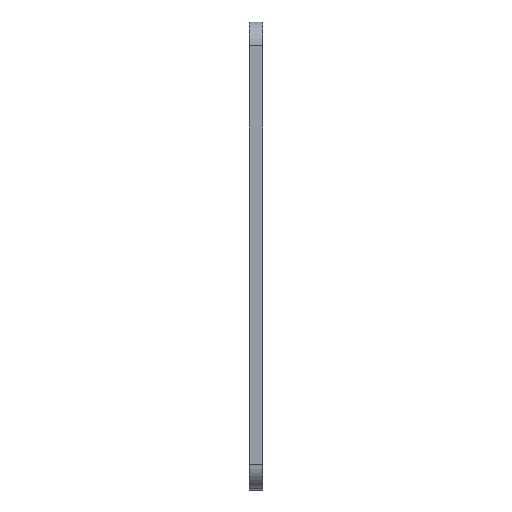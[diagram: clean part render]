
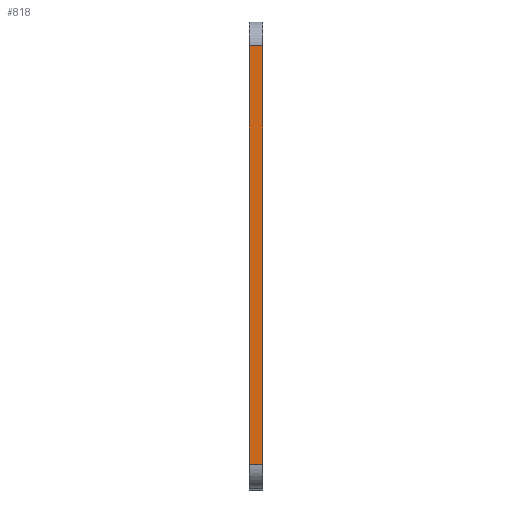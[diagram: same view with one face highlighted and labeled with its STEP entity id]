
A CAD part, top view. The second image highlights one B-rep face of the part: STEP entity #818.
In plain terms, the highlighted planar face has unit normal (0, 0, 1).
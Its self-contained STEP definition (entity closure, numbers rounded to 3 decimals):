
#45 = FACE_OUTER_BOUND ( 'NONE', #157, .T. ) ;
#116 = LINE ( 'NONE', #984, #117 ) ;
#117 = VECTOR ( 'NONE', #983, 1000. ) ;
#157 = EDGE_LOOP ( 'NONE', ( #271, #248, #272, #273 ) ) ;
#248 = ORIENTED_EDGE ( 'NONE', *, *, #315, .F. ) ;
#271 = ORIENTED_EDGE ( 'NONE', *, *, #433, .T. ) ;
#272 = ORIENTED_EDGE ( 'NONE', *, *, #436, .F. ) ;
#273 = ORIENTED_EDGE ( 'NONE', *, *, #449, .T. ) ;
#315 = EDGE_CURVE ( 'NONE', #1031, #1023, #116, .T. ) ;
#360 = AXIS2_PLACEMENT_3D ( 'NONE', #805, #804, #803 ) ;
#433 = EDGE_CURVE ( 'NONE', #1026, #1023, #534, .T. ) ;
#436 = EDGE_CURVE ( 'NONE', #1046, #1031, #516, .T. ) ;
#449 = EDGE_CURVE ( 'NONE', #1046, #1026, #495, .T. ) ;
#493 = VECTOR ( 'NONE', #792, 1000. ) ;
#495 = LINE ( 'NONE', #796, #493 ) ;
#506 = VECTOR ( 'NONE', #879, 1000. ) ;
#516 = LINE ( 'NONE', #878, #506 ) ;
#534 = LINE ( 'NONE', #871, #539 ) ;
#539 = VECTOR ( 'NONE', #870, 1000. ) ;
#636 = CARTESIAN_POINT ( 'NONE',  ( 2.25, 35., 77.75 ) ) ;
#655 = CARTESIAN_POINT ( 'NONE',  ( 2.25, -35., 77.75 ) ) ;
#663 = CARTESIAN_POINT ( 'NONE',  ( 0., 35., 77.75 ) ) ;
#666 = CARTESIAN_POINT ( 'NONE',  ( 0., -35., 77.75 ) ) ;
#792 = DIRECTION ( 'NONE',  ( -1., 0., 0. ) ) ;
#796 = CARTESIAN_POINT ( 'NONE',  ( 2.25, 35., 77.75 ) ) ;
#803 = DIRECTION ( 'NONE',  ( 0., 1., 0. ) ) ;
#804 = DIRECTION ( 'NONE',  ( 0., 0., -1. ) ) ;
#805 = CARTESIAN_POINT ( 'NONE',  ( 2.25, 35., 77.75 ) ) ;
#806 = PLANE ( 'NONE',  #360 ) ;
#818 = ADVANCED_FACE ( 'NONE', ( #45 ), #806, .F. ) ;
#870 = DIRECTION ( 'NONE',  ( 0., -1., 0. ) ) ;
#871 = CARTESIAN_POINT ( 'NONE',  ( 0., 35., 77.75 ) ) ;
#878 = CARTESIAN_POINT ( 'NONE',  ( 2.25, 35., 77.75 ) ) ;
#879 = DIRECTION ( 'NONE',  ( 0., -1., 0. ) ) ;
#983 = DIRECTION ( 'NONE',  ( -1., 0., 0. ) ) ;
#984 = CARTESIAN_POINT ( 'NONE',  ( 2.25, -35., 77.75 ) ) ;
#1023 = VERTEX_POINT ( 'NONE', #666 ) ;
#1026 = VERTEX_POINT ( 'NONE', #663 ) ;
#1031 = VERTEX_POINT ( 'NONE', #655 ) ;
#1046 = VERTEX_POINT ( 'NONE', #636 ) ;
